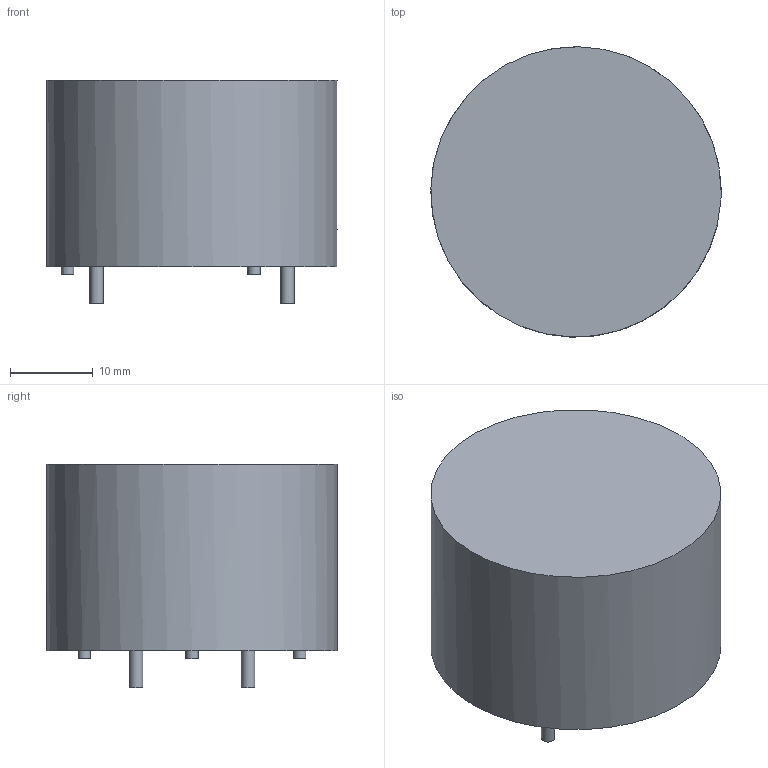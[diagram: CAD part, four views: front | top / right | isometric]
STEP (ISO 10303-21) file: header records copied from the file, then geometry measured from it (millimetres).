
FILE_DESCRIPTION(/* description */ (''),/* implementation_level */ '2;1');
FILE_NAME(/* name */ 'F:\Done\2016\多产品3D模拟\终版\新建文件夹\6123-X220\6123-X220 3D Model.stp',/* time_stamp */ '2016-07-12T14:27:18+08:00',/* author */ ('CN000562'),/* organization */ (''),/* preprocessor_version */ 'ST-DEVELOPER v16.5',/* originating_system */ 'Autodesk Inventor 2017',/* authorisation */ '');
FILE_SCHEMA (('AUTOMOTIVE_DESIGN { 1 0 10303 214 3 1 1 }'));
Length unit declared in the file: millimetre
Products named in the file (1): 6123-X316
Bounding box: 35 x 34.99 x 27 mm (x, y, z)
Volume: 21682 mm3; surface area: 4507.7 mm2
Topology: 1 solids, 1 shells, 19 faces, 30 edges, 20 vertices
Faces by surface type: plane 10, cylinder 9
Full cylindrical faces by diameter (mm): 1.5 x3, 1.6 x4, 35 x1
Entity records: 424 total; most frequent: DIRECTION 80, CARTESIAN_POINT 60, ORIENTED_EDGE 42, AXIS2_PLACEMENT_3D 39, EDGE_LOOP 34, EDGE_CURVE 21, FACE_OUTER_BOUND 19, CIRCLE 19
